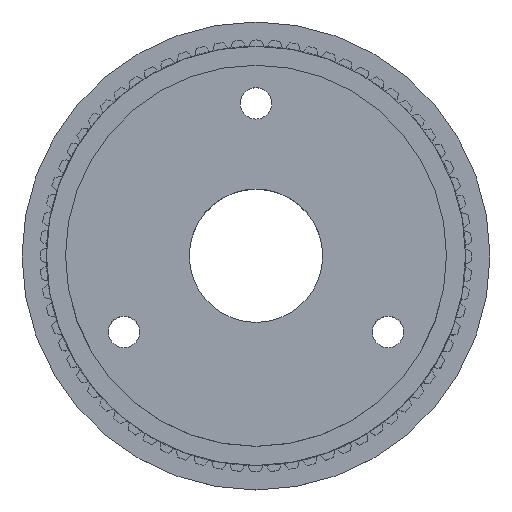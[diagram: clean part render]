
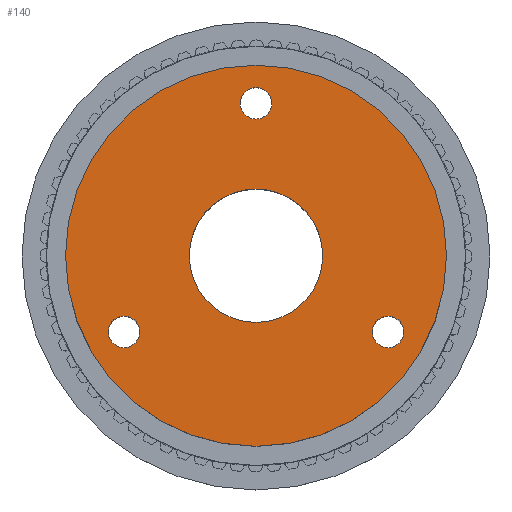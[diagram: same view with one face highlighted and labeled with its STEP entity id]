
A CAD part, top view. The second image highlights one B-rep face of the part: STEP entity #140.
In plain terms, the highlighted planar face has unit normal (0, 0, 1).
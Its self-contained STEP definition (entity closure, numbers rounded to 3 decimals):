
#24 = VERTEX_POINT('',#25);
#25 = CARTESIAN_POINT('',(20.,0.,40.2));
#32 = CYLINDRICAL_SURFACE('',#33,20.);
#33 = AXIS2_PLACEMENT_3D('',#34,#35,#36);
#34 = CARTESIAN_POINT('',(0.,0.,32.4));
#35 = DIRECTION('',(0.,0.,1.));
#36 = DIRECTION('',(1.,0.,-0.));
#51 = EDGE_CURVE('',#24,#24,#52,.T.);
#52 = SURFACE_CURVE('',#53,(#58,#65),.PCURVE_S1.);
#53 = CIRCLE('',#54,20.);
#54 = AXIS2_PLACEMENT_3D('',#55,#56,#57);
#55 = CARTESIAN_POINT('',(0.,0.,40.2));
#56 = DIRECTION('',(0.,0.,1.));
#57 = DIRECTION('',(1.,0.,-0.));
#58 = PCURVE('',#32,#59);
#59 = DEFINITIONAL_REPRESENTATION('',(#60),#64);
#60 = LINE('',#61,#62);
#61 = CARTESIAN_POINT('',(0.,7.8));
#62 = VECTOR('',#63,1.);
#63 = DIRECTION('',(1.,0.));
#64 = ( GEOMETRIC_REPRESENTATION_CONTEXT(2) 
PARAMETRIC_REPRESENTATION_CONTEXT() REPRESENTATION_CONTEXT('2D SPACE',''
  ) );
#65 = PCURVE('',#66,#71);
#66 = PLANE('',#67);
#67 = AXIS2_PLACEMENT_3D('',#68,#69,#70);
#68 = CARTESIAN_POINT('',(0.,0.,40.2));
#69 = DIRECTION('',(0.,0.,1.));
#70 = DIRECTION('',(1.,0.,-0.));
#71 = DEFINITIONAL_REPRESENTATION('',(#72),#76);
#72 = CIRCLE('',#73,20.);
#73 = AXIS2_PLACEMENT_2D('',#74,#75);
#74 = CARTESIAN_POINT('',(0.,0.));
#75 = DIRECTION('',(1.,0.));
#76 = ( GEOMETRIC_REPRESENTATION_CONTEXT(2) 
PARAMETRIC_REPRESENTATION_CONTEXT() REPRESENTATION_CONTEXT('2D SPACE',''
  ) );
#140 = ADVANCED_FACE('',(#141,#144,#175,#206,#237),#66,.T.);
#141 = FACE_BOUND('',#142,.T.);
#142 = EDGE_LOOP('',(#143));
#143 = ORIENTED_EDGE('',*,*,#51,.T.);
#144 = FACE_BOUND('',#145,.T.);
#145 = EDGE_LOOP('',(#146));
#146 = ORIENTED_EDGE('',*,*,#147,.F.);
#147 = EDGE_CURVE('',#148,#148,#150,.T.);
#148 = VERTEX_POINT('',#149);
#149 = CARTESIAN_POINT('',(-12.206,-8.,40.2));
#150 = SURFACE_CURVE('',#151,(#156,#163),.PCURVE_S1.);
#151 = CIRCLE('',#152,1.65);
#152 = AXIS2_PLACEMENT_3D('',#153,#154,#155);
#153 = CARTESIAN_POINT('',(-13.856,-8.,40.2));
#154 = DIRECTION('',(0.,0.,1.));
#155 = DIRECTION('',(1.,0.,-0.));
#156 = PCURVE('',#66,#157);
#157 = DEFINITIONAL_REPRESENTATION('',(#158),#162);
#158 = CIRCLE('',#159,1.65);
#159 = AXIS2_PLACEMENT_2D('',#160,#161);
#160 = CARTESIAN_POINT('',(-13.856,-8.));
#161 = DIRECTION('',(1.,0.));
#162 = ( GEOMETRIC_REPRESENTATION_CONTEXT(2) 
PARAMETRIC_REPRESENTATION_CONTEXT() REPRESENTATION_CONTEXT('2D SPACE',''
  ) );
#163 = PCURVE('',#164,#169);
#164 = CYLINDRICAL_SURFACE('',#165,1.65);
#165 = AXIS2_PLACEMENT_3D('',#166,#167,#168);
#166 = CARTESIAN_POINT('',(-13.856,-8.,0.));
#167 = DIRECTION('',(0.,0.,1.));
#168 = DIRECTION('',(1.,0.,-0.));
#169 = DEFINITIONAL_REPRESENTATION('',(#170),#174);
#170 = LINE('',#171,#172);
#171 = CARTESIAN_POINT('',(0.,40.2));
#172 = VECTOR('',#173,1.);
#173 = DIRECTION('',(1.,0.));
#174 = ( GEOMETRIC_REPRESENTATION_CONTEXT(2) 
PARAMETRIC_REPRESENTATION_CONTEXT() REPRESENTATION_CONTEXT('2D SPACE',''
  ) );
#175 = FACE_BOUND('',#176,.T.);
#176 = EDGE_LOOP('',(#177));
#177 = ORIENTED_EDGE('',*,*,#178,.F.);
#178 = EDGE_CURVE('',#179,#179,#181,.T.);
#179 = VERTEX_POINT('',#180);
#180 = CARTESIAN_POINT('',(15.506,-8.,40.2));
#181 = SURFACE_CURVE('',#182,(#187,#194),.PCURVE_S1.);
#182 = CIRCLE('',#183,1.65);
#183 = AXIS2_PLACEMENT_3D('',#184,#185,#186);
#184 = CARTESIAN_POINT('',(13.856,-8.,40.2));
#185 = DIRECTION('',(0.,0.,1.));
#186 = DIRECTION('',(1.,0.,-0.));
#187 = PCURVE('',#66,#188);
#188 = DEFINITIONAL_REPRESENTATION('',(#189),#193);
#189 = CIRCLE('',#190,1.65);
#190 = AXIS2_PLACEMENT_2D('',#191,#192);
#191 = CARTESIAN_POINT('',(13.856,-8.));
#192 = DIRECTION('',(1.,0.));
#193 = ( GEOMETRIC_REPRESENTATION_CONTEXT(2) 
PARAMETRIC_REPRESENTATION_CONTEXT() REPRESENTATION_CONTEXT('2D SPACE',''
  ) );
#194 = PCURVE('',#195,#200);
#195 = CYLINDRICAL_SURFACE('',#196,1.65);
#196 = AXIS2_PLACEMENT_3D('',#197,#198,#199);
#197 = CARTESIAN_POINT('',(13.856,-8.,0.));
#198 = DIRECTION('',(0.,0.,1.));
#199 = DIRECTION('',(1.,0.,-0.));
#200 = DEFINITIONAL_REPRESENTATION('',(#201),#205);
#201 = LINE('',#202,#203);
#202 = CARTESIAN_POINT('',(0.,40.2));
#203 = VECTOR('',#204,1.);
#204 = DIRECTION('',(1.,0.));
#205 = ( GEOMETRIC_REPRESENTATION_CONTEXT(2) 
PARAMETRIC_REPRESENTATION_CONTEXT() REPRESENTATION_CONTEXT('2D SPACE',''
  ) );
#206 = FACE_BOUND('',#207,.T.);
#207 = EDGE_LOOP('',(#208));
#208 = ORIENTED_EDGE('',*,*,#209,.F.);
#209 = EDGE_CURVE('',#210,#210,#212,.T.);
#210 = VERTEX_POINT('',#211);
#211 = CARTESIAN_POINT('',(7.,0.,40.2));
#212 = SURFACE_CURVE('',#213,(#218,#225),.PCURVE_S1.);
#213 = CIRCLE('',#214,7.);
#214 = AXIS2_PLACEMENT_3D('',#215,#216,#217);
#215 = CARTESIAN_POINT('',(0.,0.,40.2));
#216 = DIRECTION('',(0.,0.,1.));
#217 = DIRECTION('',(1.,0.,-0.));
#218 = PCURVE('',#66,#219);
#219 = DEFINITIONAL_REPRESENTATION('',(#220),#224);
#220 = CIRCLE('',#221,7.);
#221 = AXIS2_PLACEMENT_2D('',#222,#223);
#222 = CARTESIAN_POINT('',(0.,0.));
#223 = DIRECTION('',(1.,0.));
#224 = ( GEOMETRIC_REPRESENTATION_CONTEXT(2) 
PARAMETRIC_REPRESENTATION_CONTEXT() REPRESENTATION_CONTEXT('2D SPACE',''
  ) );
#225 = PCURVE('',#226,#231);
#226 = CYLINDRICAL_SURFACE('',#227,7.);
#227 = AXIS2_PLACEMENT_3D('',#228,#229,#230);
#228 = CARTESIAN_POINT('',(0.,0.,0.));
#229 = DIRECTION('',(0.,0.,1.));
#230 = DIRECTION('',(1.,0.,-0.));
#231 = DEFINITIONAL_REPRESENTATION('',(#232),#236);
#232 = LINE('',#233,#234);
#233 = CARTESIAN_POINT('',(0.,40.2));
#234 = VECTOR('',#235,1.);
#235 = DIRECTION('',(1.,0.));
#236 = ( GEOMETRIC_REPRESENTATION_CONTEXT(2) 
PARAMETRIC_REPRESENTATION_CONTEXT() REPRESENTATION_CONTEXT('2D SPACE',''
  ) );
#237 = FACE_BOUND('',#238,.T.);
#238 = EDGE_LOOP('',(#239));
#239 = ORIENTED_EDGE('',*,*,#240,.F.);
#240 = EDGE_CURVE('',#241,#241,#243,.T.);
#241 = VERTEX_POINT('',#242);
#242 = CARTESIAN_POINT('',(1.65,16.,40.2));
#243 = SURFACE_CURVE('',#244,(#249,#256),.PCURVE_S1.);
#244 = CIRCLE('',#245,1.65);
#245 = AXIS2_PLACEMENT_3D('',#246,#247,#248);
#246 = CARTESIAN_POINT('',(0.,16.,40.2));
#247 = DIRECTION('',(0.,0.,1.));
#248 = DIRECTION('',(1.,0.,-0.));
#249 = PCURVE('',#66,#250);
#250 = DEFINITIONAL_REPRESENTATION('',(#251),#255);
#251 = CIRCLE('',#252,1.65);
#252 = AXIS2_PLACEMENT_2D('',#253,#254);
#253 = CARTESIAN_POINT('',(0.,16.));
#254 = DIRECTION('',(1.,0.));
#255 = ( GEOMETRIC_REPRESENTATION_CONTEXT(2) 
PARAMETRIC_REPRESENTATION_CONTEXT() REPRESENTATION_CONTEXT('2D SPACE',''
  ) );
#256 = PCURVE('',#257,#262);
#257 = CYLINDRICAL_SURFACE('',#258,1.65);
#258 = AXIS2_PLACEMENT_3D('',#259,#260,#261);
#259 = CARTESIAN_POINT('',(0.,16.,0.));
#260 = DIRECTION('',(0.,0.,1.));
#261 = DIRECTION('',(1.,0.,-0.));
#262 = DEFINITIONAL_REPRESENTATION('',(#263),#267);
#263 = LINE('',#264,#265);
#264 = CARTESIAN_POINT('',(0.,40.2));
#265 = VECTOR('',#266,1.);
#266 = DIRECTION('',(1.,0.));
#267 = ( GEOMETRIC_REPRESENTATION_CONTEXT(2) 
PARAMETRIC_REPRESENTATION_CONTEXT() REPRESENTATION_CONTEXT('2D SPACE',''
  ) );
